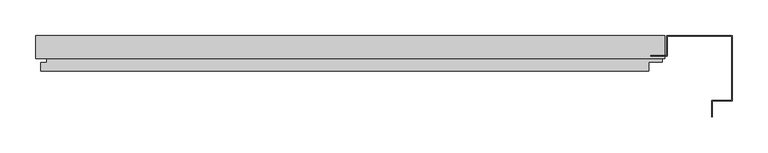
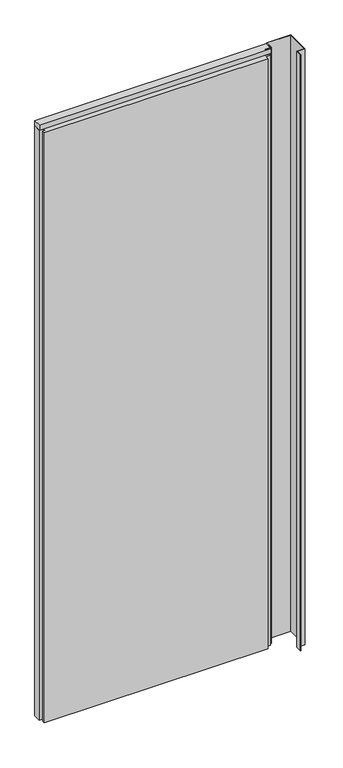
"""IFC4 building model written with IfcOpenShell, lengths in millimetres: plate geometry, Trimo_Qbiss Screen_Normal Panel-VERTICAL : HR - FB-F."""

from ifc_helpers import new_model, si_unit, frame, origin, place, context, project, spatial, polyline, outline, extrude, source, transform, mapped, element, save


def plate_dc24734b(model_context):
    return source(origin(), model_context, "Body", "SweptSolid", [
        extrude(outline(polyline([(456.0, 97.0), (437.0, 97.0), (437.0, 126.0), (456.0, 126.0), (456.0, 97.0)])), frame((0.0, 0.0, 12.5), z_axis=(0.0, 0.0, 1.0), x_axis=(1.0, 0.0, 0.0)), (0.0, 0.0, 1.0), 2375.0),
        extrude(outline(polyline([(-425.0, 93.9), (-425.0, 126.0), (456.0, 126.0), (456.0, 93.9), (-425.0, 93.9)])), frame((0.0, 0.0, 2390.5), z_axis=(0.0, 0.0, 1.0), x_axis=(1.0, 0.0, 0.0)), (0.0, 0.0, 1.0), 19.0),
        extrude(outline(polyline([(434.0, 97.0), (452.5, 97.0), (452.5, 89.0), (434.0, 89.0), (434.0, 76.0), (-418.0, 76.0), (-418.0, 88.0), (-409.5, 88.0), (-409.5, 98.0), (-425.0, 98.0), (-425.0, 126.0), (434.0, 126.0), (434.0, 97.0)])), frame((0.0, 0.0, 12.5), z_axis=(0.0, 0.0, 1.0), x_axis=(1.0, 0.0, 0.0)), (0.0, 0.0, 1.0), 2375.0),
        extrude(outline(polyline([(459.0, 97.8), (459.0, 126.0), (551.0, 126.0), (551.0, 34.0), (522.8, 34.0), (522.8, 12.0), (522.0, 12.0), (522.0, 34.8), (550.2, 34.8), (550.2, 125.2), (459.8, 125.2), (459.8, 97.0), (437.0, 97.0), (437.0, 97.8), (459.0, 97.8)])), frame((0.0, 0.0, 12.5), z_axis=(0.0, 0.0, 1.0), x_axis=(1.0, 0.0, 0.0)), (0.0, 0.0, 1.0), 2400.0),
    ])


if __name__ == "__main__":
    model = new_model("IFC4")
    model_context = context("Model", 3, world=origin())
    ifc_project = project(units=[si_unit("LENGTHUNIT", "METRE", prefix="MILLI")], contexts=[model_context])
    site = spatial("IfcSite", under=ifc_project)
    building = spatial("IfcBuilding", under=site)
    placement = place(None, origin())
    plate_shape = plate_dc24734b(model_context)
    element("IfcPlate", 1, ObjectType="Trimo_Qbiss Screen_Normal Panel-VERTICAL : HR - FB-F", at=placement, inside=building, context=model_context, shape_type="MappedRepresentation", body=[
        mapped(plate_shape, transform((0.0, 0.0, 0.0), x_axis=(1.0, 0.0, 0.0), y_axis=(0.0, 1.0, 0.0), z_axis=(0.0, 0.0, 1.0))),
    ])
    save(model, "model.ifc")
